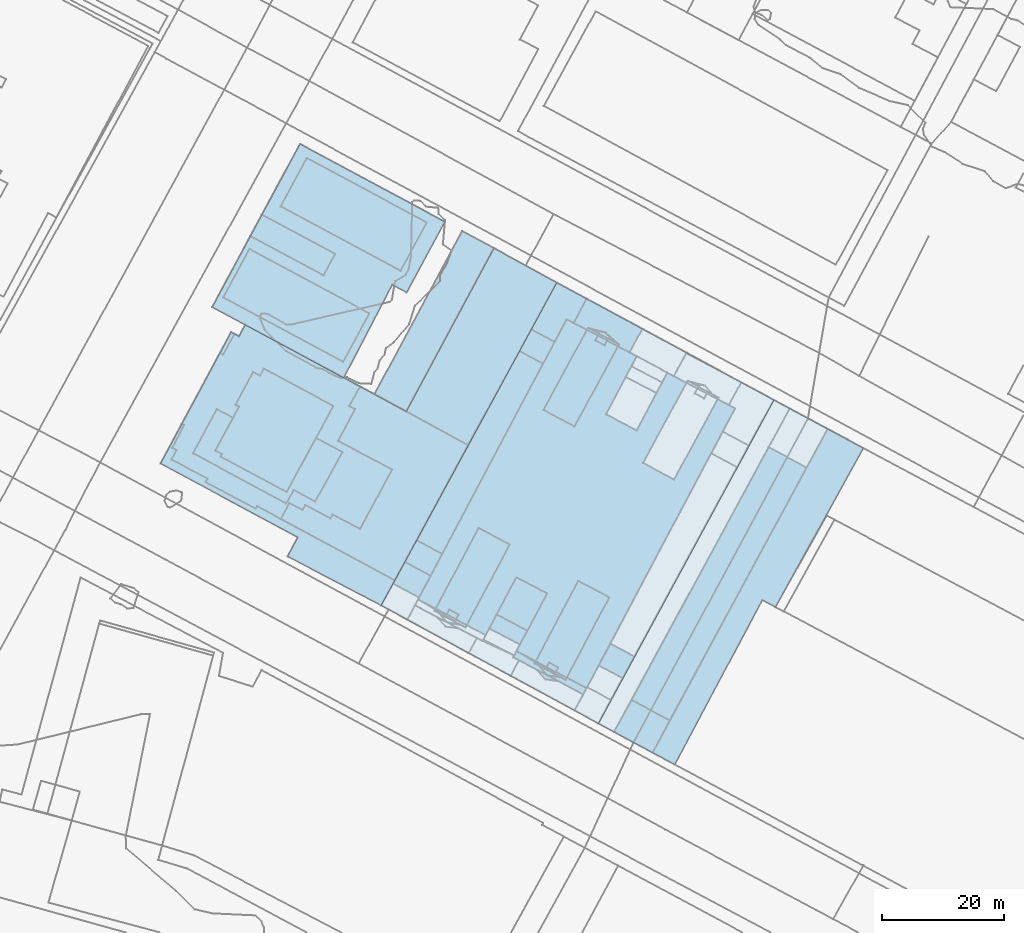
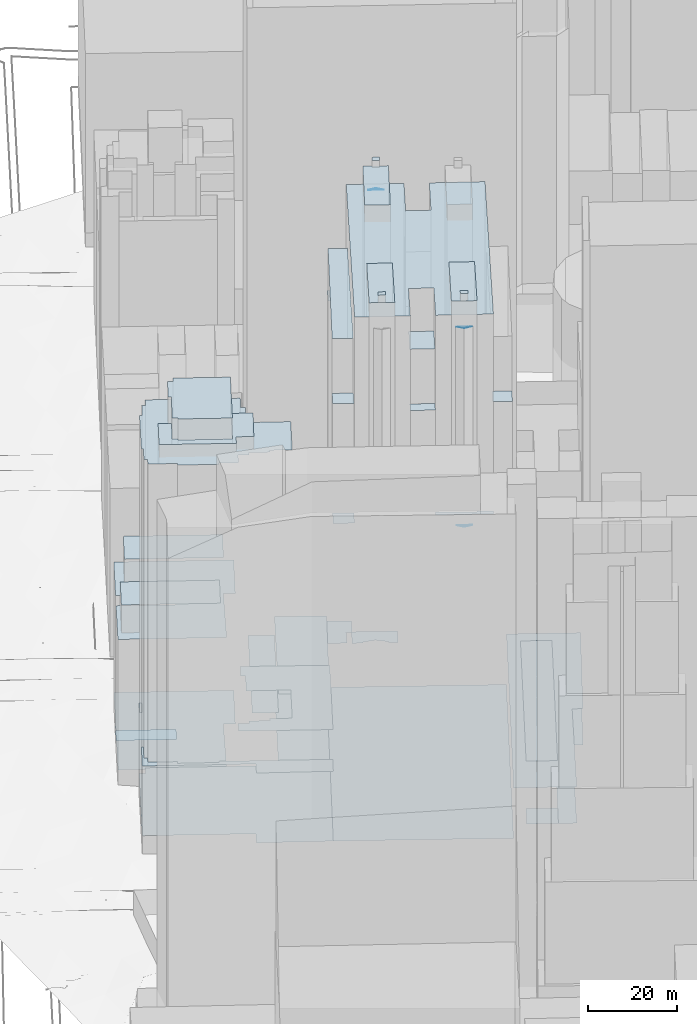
# Not in any storey, part 38 of 80: 39 roofs.
"""IFC4 building model written with IfcOpenShell, lengths in metres."""

from ifc_helpers import new_model, si_unit, frame, origin_with_axes, place, context, subcontext, project, spatial, polygons, element, save


model = new_model("IFC4")

# Units and contexts
model_context = context("Model", 3, precision=1e-05, world=origin_with_axes())
body_context = subcontext(model_context, "Body", "Model", "MODEL_VIEW")
ifc_project = project(units=[si_unit("AREAUNIT", "SQUARE_METRE"), si_unit("LENGTHUNIT", "METRE")], contexts=[model_context])

# Sites, building
site_1_placement = place(None, origin_with_axes())
site_1 = spatial("IfcSite", under=ifc_project, at=site_1_placement, Name="Topoexport Site")
site_2_placement = place(site_1_placement, origin_with_axes())
site_2 = spatial("IfcSite", under=site_1, at=site_2_placement, Name="TPX_BATIMENTS")
building_1_placement = place(site_2_placement, frame((117.977917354, 107.1295738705, 28.6103156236), z_axis=(0.0, 0.0, 1.0), x_axis=(1.0, 0.0, 0.0)))
building_1 = spatial("IfcBuilding", under=site_2, at=building_1_placement, Name="Batiment 27", CompositionType="ELEMENT")

# Roof
roof_1_placement = place(None, frame((117.977917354, 107.1295738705, 28.6103156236), z_axis=(0.0, 0.0, 1.0), x_axis=(1.0, 0.0, 0.0)))
element("IfcRoof", 1, at=roof_1_placement, inside=building_1, Name="Toiture 0", context=body_context, shape_type="Tessellation", body=[
    polygons([(0.0, 0.0, 2.0), (6.3201951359, -3.4126857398, 2.0), (9.1372634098, 1.8825086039, 2.0), (2.9022495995, 5.2295679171, 2.0)], [[[4, 1, 2]], [[2, 3, 4]]]),
])

# Building
building_2_placement = place(site_2_placement, frame((106.7237532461, 117.4349641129, 171.8733820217), z_axis=(0.0, 0.0, 1.0), x_axis=(1.0, 0.0, 0.0)))
building_2 = spatial("IfcBuilding", under=site_2, at=building_2_placement, Name="Batiment 29", CompositionType="ELEMENT")

# Roof
roof_2_placement = place(None, frame((106.7237532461, 117.4349641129, 171.8733820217), z_axis=(0.0, 0.0, 1.0), x_axis=(1.0, 0.0, 0.0)))
element("IfcRoof", 2, at=roof_2_placement, inside=building_2, Name="Toiture 0", context=body_context, shape_type="Tessellation", body=[
    polygons([(0.0, 0.0, 2.0), (1.5373911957, -0.8148118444, 2.0), (2.1242849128, 0.2578211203, 2.0), (0.5952053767, 1.0838316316, 2.0)], [[[4, 1, 2]], [[2, 3, 4]]]),
])

# Building
building_3_placement = place(site_2_placement, frame((105.7639228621, 117.9456215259, 113.8537947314), z_axis=(0.0, 0.0, 1.0), x_axis=(1.0, 0.0, 0.0)))
building_3 = spatial("IfcBuilding", under=site_2, at=building_3_placement, Name="Batiment 30", CompositionType="ELEMENT")

# Roof
roof_3_placement = place(None, frame((105.7639228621, 117.9456215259, 113.8537947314), z_axis=(0.0, 0.0, 1.0), x_axis=(1.0, 0.0, 0.0)))
element("IfcRoof", 3, at=roof_3_placement, inside=building_3, Name="Toiture 0", context=body_context, shape_type="Tessellation", body=[
    polygons([(0.0, 0.0, 51.0), (1.3516415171, -1.5386158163, 51.0), (3.4401714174, -1.8363224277, 51.0), (2.4972215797, -1.3254692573, 51.0)], [[[4, 1, 2]], [[2, 3, 4]]]),
])

# Building
building_4_placement = place(site_2_placement, frame((101.4674692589, 119.3723193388, 20.7697572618), z_axis=(0.0, 0.0, 1.0), x_axis=(1.0, 0.0, 0.0)))
building_4 = spatial("IfcBuilding", under=site_2, at=building_4_placement, Name="Batiment 31", CompositionType="ELEMENT")

# Roof
roof_4_placement = place(None, frame((101.4674692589, 119.3723193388, 20.7697572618), z_axis=(0.0, 0.0, 1.0), x_axis=(1.0, 0.0, 0.0)))
element("IfcRoof", 4, at=roof_4_placement, inside=building_4, Name="Toiture 0", context=body_context, shape_type="Tessellation", body=[
    polygons([(0.0, 0.0, 93.0), (11.4839478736, -6.1060781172, 93.0), (12.0459066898, -5.067041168, 93.0), (8.7673912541, -3.3398654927, 93.0), (8.5775159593, -3.7084452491, 93.0), (0.5287138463, 0.9942409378, 93.0)], [[[6, 1, 2]], [[2, 3, 4]], [[5, 6, 2]], [[2, 4, 5]]]),
])

# Building
building_5_placement = place(site_2_placement, frame((105.4087196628, 117.2753608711, 40.8364053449), z_axis=(0.0, 0.0, 1.0), x_axis=(1.0, 0.0, 0.0)))
building_5 = spatial("IfcBuilding", under=site_2, at=building_5_placement, Name="Batiment 33", CompositionType="ELEMENT")

# Roof
roof_5_placement = place(None, frame((105.4087196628, 117.2753608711, 40.8364053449), z_axis=(0.0, 0.0, 1.0), x_axis=(1.0, 0.0, 0.0)))
element("IfcRoof", 5, at=roof_5_placement, inside=building_5, Name="Toiture 0", context=body_context, shape_type="Tessellation", body=[
    polygons([(0.0, 0.0, 70.0), (1.3598241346, -1.5163163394, 70.0), (3.4400426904, -1.825221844, 70.0)], [[[3, 1, 2]]]),
])

# Building
building_6_placement = place(site_2_placement, frame((104.948482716, 118.3802403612, 20.8364840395), z_axis=(0.0, 0.0, 1.0), x_axis=(1.0, 0.0, 0.0)))
building_6 = spatial("IfcBuilding", under=site_2, at=building_6_placement, Name="Batiment 34", CompositionType="ELEMENT")

# Roof
roof_6_placement = place(None, frame((104.948482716, 118.3802403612, 20.8364840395), z_axis=(0.0, 0.0, 1.0), x_axis=(1.0, 0.0, 0.0)))
element("IfcRoof", 6, at=roof_6_placement, inside=building_6, Name="Toiture 0", context=body_context, shape_type="Tessellation", body=[
    polygons([(0.0, 0.0, 151.0), (5.0965025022, -2.7163662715, 151.0), (12.2665233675, 10.8228483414, 151.0), (7.1619736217, 13.5058093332, 151.0)], [[[4, 1, 2]], [[2, 3, 4]]]),
])

# Building
building_7_placement = place(site_2_placement, frame((115.4875749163, 118.0363623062, 20.7911243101), z_axis=(0.0, 0.0, 1.0), x_axis=(1.0, 0.0, 0.0)))
building_7 = spatial("IfcBuilding", under=site_2, at=building_7_placement, Name="Batiment 35", CompositionType="ELEMENT")

# Roof
roof_7_placement = place(None, frame((115.4875749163, 118.0363623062, 20.7911243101), z_axis=(0.0, 0.0, 1.0), x_axis=(1.0, 0.0, 0.0)))
element("IfcRoof", 7, at=roof_7_placement, inside=building_7, Name="Toiture 0", context=body_context, shape_type="Tessellation", body=[
    polygons([(0.0, 0.0, 120.0), (3.8991819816, -2.1085420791, 120.0), (5.8246692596, 1.4554440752, 120.0), (1.8915978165, 3.5746936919, 120.0)], [[[4, 1, 2]], [[2, 3, 4]]]),
])

# Building
building_8_placement = place(site_2_placement, frame((124.2981124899, 103.7168881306, 20.5602683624), z_axis=(0.0, 0.0, 1.0), x_axis=(1.0, 0.0, 0.0)))
building_8 = spatial("IfcBuilding", under=site_2, at=building_8_placement, Name="Batiment 43", CompositionType="ELEMENT")

# Roof
roof_8_placement = place(None, frame((124.2981124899, 103.7168881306, 20.5602683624), z_axis=(0.0, 0.0, 1.0), x_axis=(1.0, 0.0, 0.0)))
element("IfcRoof", 8, at=roof_8_placement, inside=building_8, Name="Toiture 0", context=body_context, shape_type="Tessellation", body=[
    polygons([(0.0, 0.0, 10.0), (3.6522260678, -1.9226684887, 10.0), (18.0018064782, 25.0559943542, 10.0), (20.1510385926, 23.8930274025, 10.0), (34.5701681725, 49.9621498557, 10.0), (28.6922531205, 53.0912869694, 10.0)], [[[6, 1, 2]], [[3, 4, 5]], [[6, 2, 3]], [[3, 5, 6]]]),
])

# Building
building_9_placement = place(site_2_placement, frame((115.4207049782, 108.532058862, 30.5602683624), z_axis=(0.0, 0.0, 1.0), x_axis=(1.0, 0.0, 0.0)))
building_9 = spatial("IfcBuilding", under=site_2, at=building_9_placement, Name="Batiment 47", CompositionType="ELEMENT")

# Roof
roof_9_placement = place(None, frame((115.4207049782, 108.532058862, 30.5602683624), z_axis=(0.0, 0.0, 1.0), x_axis=(1.0, 0.0, 0.0)))
element("IfcRoof", 9, at=roof_9_placement, inside=building_9, Name="Toiture 0", context=body_context, shape_type="Tessellation", body=[
    polygons([(0.0, 0.0, 10.0), (12.5296335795, -6.7378392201, 10.0), (26.8792139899, 20.2408236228, 10.0), (29.0284461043, 19.0778566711, 10.0), (43.4475756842, 45.1469791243, 10.0), (28.7687753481, 53.0477319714, 10.0)], [[[6, 1, 2]], [[3, 4, 5]], [[6, 2, 3]], [[3, 5, 6]]]),
])

# Building
building_10_placement = place(site_2_placement, frame((120.8801669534, 112.3591417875, 40.6481645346), z_axis=(0.0, 0.0, 1.0), x_axis=(1.0, 0.0, 0.0)))
building_10 = spatial("IfcBuilding", under=site_2, at=building_10_placement, Name="Batiment 48", CompositionType="ELEMENT")

# Roof
roof_10_placement = place(None, frame((120.8801669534, 112.3591417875, 40.6481645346), z_axis=(0.0, 0.0, 1.0), x_axis=(1.0, 0.0, 0.0)))
element("IfcRoof", 10, at=roof_10_placement, inside=building_10, Name="Toiture 0", context=body_context, shape_type="Tessellation", body=[
    polygons([(0.0, 0.0, 3.0), (6.2350138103, -3.3470593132, 3.0), (28.6975847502, 38.1032951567, 3.0), (22.4624654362, 41.461436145, 3.0)], [[[4, 1, 2]], [[2, 3, 4]]]),
])

# Building
building_11_placement = place(site_2_placement, frame((98.7355611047, 126.3683150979, 140.9622219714), z_axis=(0.0, 0.0, 1.0), x_axis=(1.0, 0.0, 0.0)))
building_11 = spatial("IfcBuilding", under=site_2, at=building_11_placement, Name="Batiment 49", CompositionType="ELEMENT")

# Roof
roof_11_placement = place(None, frame((98.7355611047, 126.3683150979, 140.9622219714), z_axis=(0.0, 0.0, 1.0), x_axis=(1.0, 0.0, 0.0)))
element("IfcRoof", 11, at=roof_11_placement, inside=building_11, Name="Toiture 0", context=body_context, shape_type="Tessellation", body=[
    polygons([(0.0, 0.0, 15.0), (5.0366380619, -2.6504521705, 15.0), (8.2830739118, 3.4712880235, 15.0), (3.2464387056, 6.1217379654, 15.0)], [[[4, 1, 2]], [[2, 3, 4]]]),
])

# Building
building_12_placement = place(site_2_placement, frame((85.8586663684, 128.8500079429, 20.7906594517), z_axis=(0.0, 0.0, 1.0), x_axis=(1.0, 0.0, 0.0)))
building_12 = spatial("IfcBuilding", under=site_2, at=building_12_placement, Name="Batiment 50", CompositionType="ELEMENT")

# Roof
roof_12_placement = place(None, frame((85.8586663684, 128.8500079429, 20.7906594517), z_axis=(0.0, 0.0, 1.0), x_axis=(1.0, 0.0, 0.0)))
element("IfcRoof", 12, at=roof_12_placement, inside=building_12, Name="Toiture 0", context=body_context, shape_type="Tessellation", body=[
    polygons([(0.0, 0.0, 147.0), (11.1010060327, -5.844095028, 147.0), (16.1233334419, 3.6400451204, 147.0), (21.1599686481, 0.9895951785, 147.0), (16.1375167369, -8.4834476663, 147.0), (27.6547095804, -14.544729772, 147.0), (51.973663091, 31.3347461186, 147.0), (40.8642373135, 37.1786817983, 147.0), (35.8417076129, 27.7167250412, 147.0), (30.8135250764, 30.3672629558, 147.0), (35.8607355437, 39.8850142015, 147.0), (24.3521878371, 45.9352801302, 147.0)], [[[12, 1, 2]], [[4, 5, 6]], [[6, 7, 8]], [[10, 11, 12]], [[12, 2, 3]], [[6, 8, 9]], [[10, 12, 3]], [[4, 6, 9]], [[9, 10, 3]], [[3, 4, 9]]]),
])

# Building
building_13_placement = place(site_2_placement, frame((79.7834254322, 127.8912834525, 20.6975796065), z_axis=(0.0, 0.0, 1.0), x_axis=(1.0, 0.0, 0.0)))
building_13 = spatial("IfcBuilding", under=site_2, at=building_13_placement, Name="Batiment 51", CompositionType="ELEMENT")

# Roof
roof_13_placement = place(None, frame((79.7834254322, 127.8912834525, 20.6975796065), z_axis=(0.0, 0.0, 1.0), x_axis=(1.0, 0.0, 0.0)))
element("IfcRoof", 13, at=roof_13_placement, inside=building_13, Name="Toiture 0", context=body_context, shape_type="Tessellation", body=[
    polygons([(0.0, 0.0, 6.0), (35.637279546, -19.3592245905, 6.0), (64.4060548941, 33.6885073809, 6.0), (28.8041259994, 52.9258761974, 6.0)], [[[4, 1, 2]], [[2, 3, 4]]]),
])

# Building
building_14_placement = place(site_2_placement, frame((106.4243167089, 159.930902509, 21.4761548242), z_axis=(0.0, 0.0, 1.0), x_axis=(1.0, 0.0, 0.0)))
building_14 = spatial("IfcBuilding", under=site_2, at=building_14_placement, Name="Batiment 52", CompositionType="ELEMENT")

# Roof
roof_14_placement = place(None, frame((106.4243167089, 159.930902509, 21.4761548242), z_axis=(0.0, 0.0, 1.0), x_axis=(1.0, 0.0, 0.0)))
element("IfcRoof", 14, at=roof_14_placement, inside=building_14, Name="Toiture 0", context=body_context, shape_type="Tessellation", body=[
    polygons([(0.0, 0.0, 151.0), (5.0797232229, -2.7276618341, 151.0), (12.3774646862, 10.7131197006, 151.0), (7.2976187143, 13.4518772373, 151.0)], [[[4, 1, 2]], [[2, 3, 4]]]),
])

# Building
building_15_placement = place(site_2_placement, frame((102.4881306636, 169.5885518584, 21.7443464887), z_axis=(0.0, 0.0, 1.0), x_axis=(1.0, 0.0, 0.0)))
building_15 = spatial("IfcBuilding", under=site_2, at=building_15_placement, Name="Batiment 53", CompositionType="ELEMENT")

# Roof
roof_15_placement = place(None, frame((102.4881306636, 169.5885518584, 21.7443464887), z_axis=(0.0, 0.0, 1.0), x_axis=(1.0, 0.0, 0.0)))
element("IfcRoof", 15, at=roof_15_placement, inside=building_15, Name="Toiture 0", context=body_context, shape_type="Tessellation", body=[
    polygons([(0.0, 0.0, 120.0), (3.865132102, -2.0867392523, 120.0), (5.7567207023, 1.4879525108, 120.0), (1.9256092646, 3.5528813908, 120.0)], [[[4, 1, 2]], [[2, 3, 4]]]),
])

# Building
building_16_placement = place(site_2_placement, frame((114.5459395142, 172.9371592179, 41.8919622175), z_axis=(0.0, 0.0, 1.0), x_axis=(1.0, 0.0, 0.0)))
building_16 = spatial("IfcBuilding", under=site_2, at=building_16_placement, Name="Batiment 54", CompositionType="ELEMENT")

# Roof
roof_16_placement = place(None, frame((114.5459395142, 172.9371592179, 41.8919622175), z_axis=(0.0, 0.0, 1.0), x_axis=(1.0, 0.0, 0.0)))
element("IfcRoof", 16, at=roof_16_placement, inside=building_16, Name="Toiture 0", context=body_context, shape_type="Tessellation", body=[
    polygons([(0.0, 0.0, 124.0), (2.4804532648, -1.3367629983, 124.0), (3.4318372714, -1.8475169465, 124.0), (2.0464414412, -0.3092952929, 124.0)], [[[4, 1, 2]], [[2, 3, 4]]]),
])

# Building
building_17_placement = place(site_2_placement, frame((114.9105640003, 171.3426705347, 172.8731858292), z_axis=(0.0, 0.0, 1.0), x_axis=(1.0, 0.0, 0.0)))
building_17 = spatial("IfcBuilding", under=site_2, at=building_17_placement, Name="Batiment 55", CompositionType="ELEMENT")

# Roof
roof_17_placement = place(None, frame((114.9105640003, 171.3426705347, 172.8731858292), z_axis=(0.0, 0.0, 1.0), x_axis=(1.0, 0.0, 0.0)))
element("IfcRoof", 17, at=roof_17_placement, inside=building_17, Name="Toiture 0", context=body_context, shape_type="Tessellation", body=[
    polygons([(0.0, 0.0, 2.0), (1.529069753, -0.8260088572, 2.0), (2.1158287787, 0.2577256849, 2.0), (0.5867591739, 1.0837344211, 2.0)], [[[4, 1, 2]], [[2, 3, 4]]]),
])

# Building
building_18_placement = place(site_2_placement, frame((111.3914170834, 174.1661728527, 21.831197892), z_axis=(0.0, 0.0, 1.0), x_axis=(1.0, 0.0, 0.0)))
building_18 = spatial("IfcBuilding", under=site_2, at=building_18_placement, Name="Batiment 67", CompositionType="ELEMENT")

# Roof
roof_18_placement = place(None, frame((111.3914170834, 174.1661728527, 21.831197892), z_axis=(0.0, 0.0, 1.0), x_axis=(1.0, 0.0, 0.0)))
element("IfcRoof", 18, at=roof_18_placement, inside=building_18, Name="Toiture 0", context=body_context, shape_type="Tessellation", body=[
    polygons([(0.0, 0.0, 20.0), (2.1403869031, -1.1297715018, 20.0), (2.3305183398, -0.7833931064, 20.0), (5.2009638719, -1.5383089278, 20.0), (7.4103643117, -3.5221506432, 20.0), (7.2449094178, -3.8127312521, 20.0), (9.1388508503, -4.8010344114, 20.0), (11.2550985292, -0.9461725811, 20.0), (2.1061341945, 3.9990709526, 20.0)], [[[9, 1, 2]], [[5, 6, 7]], [[7, 8, 9]], [[9, 2, 3]], [[4, 5, 7]], [[9, 3, 4]], [[4, 7, 9]]]),
])

# Building
building_19_placement = place(site_2_placement, frame((104.4137399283, 173.1414332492, 21.8630474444), z_axis=(0.0, 0.0, 1.0), x_axis=(1.0, 0.0, 0.0)))
building_19 = spatial("IfcBuilding", under=site_2, at=building_19_placement, Name="Batiment 68", CompositionType="ELEMENT")

# Roof
roof_19_placement = place(None, frame((104.4137399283, 173.1414332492, 21.8630474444), z_axis=(0.0, 0.0, 1.0), x_axis=(1.0, 0.0, 0.0)))
element("IfcRoof", 19, at=roof_19_placement, inside=building_19, Name="Toiture 0", context=body_context, shape_type="Tessellation", body=[
    polygons([(0.0, 0.0, 23.0), (3.8311114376, -2.06492888, 23.0), (5.7971142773, 1.6438548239, 23.0), (6.9776771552, 1.0247396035, 23.0), (9.0838113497, 5.0238105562, 23.0), (4.1738115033, 7.6757264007, 23.0)], [[[6, 1, 2]], [[3, 4, 5]], [[6, 2, 3]], [[3, 5, 6]]]),
])

# Building
building_20_placement = place(site_2_placement, frame((78.7061684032, 162.506692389, 21.2045848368), z_axis=(0.0, 0.0, 1.0), x_axis=(1.0, 0.0, 0.0)))
building_20 = spatial("IfcBuilding", under=site_2, at=building_20_placement, Name="Batiment 173", CompositionType="ELEMENT")

# Roof
roof_20_placement = place(None, frame((78.7061684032, 162.506692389, 21.2045848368), z_axis=(0.0, 0.0, 1.0), x_axis=(1.0, 0.0, 0.0)))
element("IfcRoof", 20, at=roof_20_placement, inside=building_20, Name="Toiture 0", context=body_context, shape_type="Tessellation", body=[
    polygons([(0.0, 0.0, 20.0), (5.2156594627, -2.803817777, 20.0), (19.5931770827, 23.953040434, 20.0), (14.377530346, 26.7568479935, 20.0)], [[[4, 1, 2]], [[2, 3, 4]]]),
])

# Building
building_21_placement = place(site_2_placement, frame((53.9063589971, 178.3836490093, 62.2466982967), z_axis=(0.0, 0.0, 1.0), x_axis=(1.0, 0.0, 0.0)))
building_21 = spatial("IfcBuilding", under=site_2, at=building_21_placement, Name="Batiment 174", CompositionType="ELEMENT")

# Roof
roof_21_placement = place(None, frame((53.9063589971, 178.3836490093, 62.2466982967), z_axis=(0.0, 0.0, 1.0), x_axis=(1.0, 0.0, 0.0)))
element("IfcRoof", 21, at=roof_21_placement, inside=building_21, Name="Toiture 0", context=body_context, shape_type="Tessellation", body=[
    polygons([(0.0, 0.0, 7.7000007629), (19.6563100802, -10.5631889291, 7.7000007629), (23.9622377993, -2.6305951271, 7.7000007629), (4.2973726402, 7.9435850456, 7.7000007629)], [[[4, 1, 2]], [[2, 3, 4]]]),
])

# Building
building_22_placement = place(site_2_placement, frame((52.1098467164, 176.7973780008, 20.2692366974), z_axis=(0.0, 0.0, 1.0), x_axis=(1.0, 0.0, 0.0)))
building_22 = spatial("IfcBuilding", under=site_2, at=building_22_placement, Name="Batiment 175", CompositionType="ELEMENT")

# Roof
roof_22_placement = place(None, frame((52.1098467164, 176.7973780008, 20.2692366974), z_axis=(0.0, 0.0, 1.0), x_axis=(1.0, 0.0, 0.0)))
element("IfcRoof", 22, at=roof_22_placement, inside=building_22, Name="Toiture 0", context=body_context, shape_type="Tessellation", body=[
    polygons([(0.0, 0.0, 6.0), (21.5590744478, -11.5847130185, 6.0), (29.5109655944, 3.6843947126, 6.0), (31.872471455, 2.412853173, 6.0), (38.1367223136, 13.9875293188, 6.0), (14.3775952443, 26.7567958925, 6.0)], [[[6, 1, 2]], [[3, 4, 5]], [[6, 2, 3]], [[3, 5, 6]]]),
])

# Building
building_23_placement = place(site_2_placement, frame((52.1098467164, 176.7973780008, 20.0588630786), z_axis=(0.0, 0.0, 1.0), x_axis=(1.0, 0.0, 0.0)))
building_23 = spatial("IfcBuilding", under=site_2, at=building_23_placement, Name="Batiment 176", CompositionType="ELEMENT")

# Roof
roof_23_placement = place(None, frame((52.1098467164, 176.7973780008, 20.0588630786), z_axis=(0.0, 0.0, 1.0), x_axis=(1.0, 0.0, 0.0)))
element("IfcRoof", 23, at=roof_23_placement, inside=building_23, Name="Toiture 0", context=body_context, shape_type="Tessellation", body=[
    polygons([(0.0, 0.0, 42.0), (21.5590744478, -11.5847130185, 42.0), (29.5109655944, 3.6843947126, 42.0), (31.872471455, 2.412853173, 42.0), (38.1367223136, 13.9875293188, 42.0), (14.3775952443, 26.7567958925, 42.0), (8.1303289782, 15.1712352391, 42.0), (20.1415581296, 8.715946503, 42.0), (18.2324312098, 5.1965718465, 42.0), (6.2211982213, 11.6518637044, 42.0)], [[[10, 1, 2]], [[3, 4, 5]], [[5, 6, 7]], [[9, 10, 2]], [[3, 5, 7]], [[8, 9, 2]], [[3, 7, 8]], [[8, 2, 3]]]),
])

# Building
building_24_placement = place(site_2_placement, frame((63.3141408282, 193.3143650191, 62.430841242), z_axis=(0.0, 0.0, 1.0), x_axis=(1.0, 0.0, 0.0)))
building_24 = spatial("IfcBuilding", under=site_2, at=building_24_placement, Name="Batiment 177", CompositionType="ELEMENT")

# Roof
roof_24_placement = place(None, frame((63.3141408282, 193.3143650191, 62.430841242), z_axis=(0.0, 0.0, 1.0), x_axis=(1.0, 0.0, 0.0)))
element("IfcRoof", 24, at=roof_24_placement, inside=building_24, Name="Toiture 0", context=body_context, shape_type="Tessellation", body=[
    polygons([(0.0, 0.0, 7.7000007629), (19.6564142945, -10.5742645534, 7.7000007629), (23.9623227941, -2.6416648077, 7.7000007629), (4.2974822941, 7.9324902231, 7.7000007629)], [[[4, 1, 2]], [[2, 3, 4]]]),
])

# Building
building_25_placement = place(site_2_placement, frame((58.3310449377, 188.4492417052, 20.0588630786), z_axis=(0.0, 0.0, 1.0), x_axis=(1.0, 0.0, 0.0)))
building_25 = spatial("IfcBuilding", under=site_2, at=building_25_placement, Name="Batiment 178", CompositionType="ELEMENT")

# Roof
roof_25_placement = place(None, frame((58.3310449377, 188.4492417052, 20.0588630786), z_axis=(0.0, 0.0, 1.0), x_axis=(1.0, 0.0, 0.0)))
element("IfcRoof", 25, at=roof_25_placement, inside=building_25, Name="Toiture 0", context=body_context, shape_type="Tessellation", body=[
    polygons([(0.0, 0.0, 5.0), (12.0112329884, -6.4552918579, 5.0), (13.9203599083, -2.9359172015, 5.0), (1.9091307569, 3.5193715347, 5.0)], [[[4, 1, 2]], [[2, 3, 4]]]),
])

# Building
building_26_placement = place(site_2_placement, frame((53.3786072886, 169.3069851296, 21.038693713), z_axis=(0.0, 0.0, 1.0), x_axis=(1.0, 0.0, 0.0)))
building_26 = spatial("IfcBuilding", under=site_2, at=building_26_placement, Name="Batiment 179", CompositionType="ELEMENT")

# Roof
roof_26_placement = place(None, frame((53.3786072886, 169.3069851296, 21.038693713), z_axis=(0.0, 0.0, 1.0), x_axis=(1.0, 0.0, 0.0)))
element("IfcRoof", 26, at=roof_26_placement, inside=building_26, Name="Toiture 0", context=body_context, shape_type="Tessellation", body=[
    polygons([(0.0, 0.0, 25.0), (0.5353523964, -0.3046485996, 25.0), (2.3698157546, 3.1028322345, 25.0), (1.8261519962, 3.3962819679, 25.0)], [[[4, 1, 2]], [[2, 3, 4]]]),
])

# Building
building_27_placement = place(site_2_placement, frame((48.9439736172, 152.8241808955, 21.1794819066), z_axis=(0.0, 0.0, 1.0), x_axis=(1.0, 0.0, 0.0)))
building_27 = spatial("IfcBuilding", under=site_2, at=building_27_placement, Name="Batiment 180", CompositionType="ELEMENT")

# Roof
roof_27_placement = place(None, frame((48.9439736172, 152.8241808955, 21.1794819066), z_axis=(0.0, 0.0, 1.0), x_axis=(1.0, 0.0, 0.0)))
element("IfcRoof", 27, at=roof_27_placement, inside=building_27, Name="Toiture 0", context=body_context, shape_type="Tessellation", body=[
    polygons([(0.0, 0.0, 110.0), (15.3072963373, -8.2378124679, 110.0), (16.539143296, -6.0030615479, 110.0), (20.031093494, -7.9387212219, 110.0), (24.5122266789, 0.1735393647, 110.0), (20.1715989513, 2.4990246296, 110.0), (15.3699209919, -6.3608053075, 110.0), (4.5649061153, -0.5576359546, 110.0), (4.788158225, -0.1553634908, 110.0), (3.6753780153, 0.4423431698, 110.0), (6.5761073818, 5.8050944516, 110.0), (3.9173823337, 7.2286264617, 110.0)], [[[3, 4, 5]], [[5, 6, 7]], [[8, 9, 10]], [[10, 11, 12]], [[3, 5, 7]], [[10, 12, 1]], [[2, 3, 7]], [[8, 10, 1]], [[1, 2, 7]], [[7, 8, 1]]]),
])

# Building
building_28_placement = place(site_2_placement, frame((52.6193516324, 153.2665240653, 20.9538410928), z_axis=(0.0, 0.0, 1.0), x_axis=(1.0, 0.0, 0.0)))
building_28 = spatial("IfcBuilding", under=site_2, at=building_28_placement, Name="Batiment 181", CompositionType="ELEMENT")

# Roof
roof_28_placement = place(None, frame((52.6193516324, 153.2665240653, 20.9538410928), z_axis=(0.0, 0.0, 1.0), x_axis=(1.0, 0.0, 0.0)))
element("IfcRoof", 28, at=roof_28_placement, inside=building_28, Name="Toiture 0", context=body_context, shape_type="Tessellation", body=[
    polygons([(0.0, 0.0, 116.0), (1.1127802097, -0.5977066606, 116.0), (0.8895281, -0.9999791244, 116.0), (11.6945429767, -6.8031484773, 116.0), (19.3390148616, 7.3188466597, 116.0), (7.9393204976, 13.448168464, 116.0), (7.3113819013, 12.2751425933, 116.0), (6.1901626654, 12.8727503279, 116.0), (3.2894387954, 7.5099976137, 116.0), (3.8925728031, 7.1839315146, 116.0)], [[[10, 1, 2]], [[2, 3, 4]], [[4, 5, 6]], [[7, 8, 9]], [[10, 2, 4]], [[4, 6, 7]], [[7, 9, 10]], [[10, 4, 7]]]),
])

# Building
building_29_placement = place(site_2_placement, frame((45.4357916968, 151.795361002, 20.6875388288), z_axis=(0.0, 0.0, 1.0), x_axis=(1.0, 0.0, 0.0)))
building_29 = spatial("IfcBuilding", under=site_2, at=building_29_placement, Name="Batiment 182", CompositionType="ELEMENT")

# Roof
roof_29_placement = place(None, frame((45.4357916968, 151.795361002, 20.6875388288), z_axis=(0.0, 0.0, 1.0), x_axis=(1.0, 0.0, 0.0)))
element("IfcRoof", 29, at=roof_29_placement, inside=building_29, Name="Toiture 0", context=body_context, shape_type="Tessellation", body=[
    polygons([(0.0, 0.0, 107.0), (5.9203309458, -3.1509334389, 107.0), (5.6146072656, -3.720696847, 107.0), (13.7856998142, -8.0556430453, 107.0), (14.0088230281, -7.6422696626, 107.0), (17.9245978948, -9.7284433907, 107.0), (19.3210010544, -7.125408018, 107.0), (21.4785274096, -8.2771984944, 107.0), (21.9247729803, -7.4504512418, 107.0), (26.0784283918, -9.6670859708, 107.0), (26.4255795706, -9.0302271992, 107.0), (30.9185296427, -11.3872491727, 107.0), (36.1572274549, -1.6341566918, 107.0), (27.3067714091, 3.0481492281, 107.0), (30.0995650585, 8.2542240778, 107.0), (29.1483116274, 8.7538826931, 107.0), (30.9087376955, 11.9939753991, 107.0), (12.0765422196, 22.100429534, 107.0), (11.0601529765, 20.2123506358, 107.0), (10.3126313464, 20.6144563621, 107.0), (8.4781679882, 17.206975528, 107.0), (7.9428155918, 17.5116241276, 107.0), (1.679905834, 5.8148724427, 107.0), (2.0700969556, 5.6528677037, 107.0), (0.1044447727, 1.9107990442, 107.0), (0.8347003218, 1.5417986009, 107.0)], [[[26, 1, 2]], [[2, 3, 4]], [[5, 6, 7]], [[7, 8, 9]], [[9, 10, 11]], [[11, 12, 13]], [[14, 15, 16]], [[16, 17, 18]], [[19, 20, 21]], [[21, 22, 23]], [[24, 25, 26]], [[26, 2, 4]], [[9, 11, 13]], [[14, 16, 18]], [[19, 21, 23]], [[24, 26, 4]], [[7, 9, 13]], [[14, 18, 19]], [[19, 23, 24]], [[24, 4, 5]], [[5, 7, 13]], [[14, 19, 24]], [[24, 5, 13]], [[13, 14, 24]]]),
])

# Building
building_30_placement = place(site_2_placement, frame((43.6198790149, 151.1525582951, 20.6875388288), z_axis=(0.0, 0.0, 1.0), x_axis=(1.0, 0.0, 0.0)))
building_30 = spatial("IfcBuilding", under=site_2, at=building_30_placement, Name="Batiment 183", CompositionType="ELEMENT")

# Roof
roof_30_placement = place(None, frame((43.6198790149, 151.1525582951, 20.6875388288), z_axis=(0.0, 0.0, 1.0), x_axis=(1.0, 0.0, 0.0)))
element("IfcRoof", 30, at=roof_30_placement, inside=building_30, Name="Toiture 0", context=body_context, shape_type="Tessellation", body=[
    polygons([(0.0, 0.0, 6.0), (22.5189582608, -12.0954008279, 6.0), (20.8331965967, -15.2236014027, 6.0), (36.1635464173, -23.2612748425, 6.0), (64.9676724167, 29.6646013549, 6.0), (54.679466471, 35.307174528, 6.0), (40.301948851, 8.550316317, 6.0), (13.8924549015, 22.7432322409, 6.0), (12.8760656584, 20.8551533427, 6.0), (11.5848802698, 21.5507088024, 6.0)], [[[10, 1, 2]], [[2, 3, 4]], [[4, 5, 6]], [[7, 8, 9]], [[9, 10, 2]], [[4, 6, 7]], [[7, 9, 2]], [[2, 4, 7]]]),
])

# Building
building_31_placement = place(site_2_placement, frame((83.9218278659, 159.7028746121, 21.3185794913), z_axis=(0.0, 0.0, 1.0), x_axis=(1.0, 0.0, 0.0)))
building_31 = spatial("IfcBuilding", under=site_2, at=building_31_placement, Name="Batiment 184", CompositionType="ELEMENT")

# Roof
roof_31_placement = place(None, frame((83.9218278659, 159.7028746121, 21.3185794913), z_axis=(0.0, 0.0, 1.0), x_axis=(1.0, 0.0, 0.0)))
element("IfcRoof", 31, at=roof_31_placement, inside=building_31, Name="Toiture 0", context=body_context, shape_type="Tessellation", body=[
    polygons([(0.0, 0.0, 25.0), (10.1183913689, -5.5557477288, 25.0), (24.6657235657, 21.1142850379, 25.0), (14.37751762, 26.756858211, 25.0)], [[[4, 1, 2]], [[2, 3, 4]]]),
])

# Building
building_32_placement = place(site_2_placement, frame((85.6362783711, 138.5507919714, 21.0890233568), z_axis=(0.0, 0.0, 1.0), x_axis=(1.0, 0.0, 0.0)))
building_32 = spatial("IfcBuilding", under=site_2, at=building_32_placement, Name="Batiment 185", CompositionType="ELEMENT")

# Roof
roof_32_placement = place(None, frame((85.6362783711, 138.5507919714, 21.0890233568), z_axis=(0.0, 0.0, 1.0), x_axis=(1.0, 0.0, 0.0)))
element("IfcRoof", 32, at=roof_32_placement, inside=building_32, Name="Toiture 0", context=body_context, shape_type="Tessellation", body=[
    polygons([(0.0, 0.0, 135.0), (4.1792434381, -2.2385320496, 135.0), (20.7169843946, 28.9510206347, 135.0), (16.8518522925, 31.0377598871, 135.0)], [[[4, 1, 2]], [[2, 3, 4]]]),
])

# Building
building_33_placement = place(site_2_placement, frame((63.3603895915, 142.0669176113, 21.031144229), z_axis=(0.0, 0.0, 1.0), x_axis=(1.0, 0.0, 0.0)))
building_33 = spatial("IfcBuilding", under=site_2, at=building_33_placement, Name="Batiment 186", CompositionType="ELEMENT")

# Roof
roof_33_placement = place(None, frame((63.3603895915, 142.0669176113, 21.031144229), z_axis=(0.0, 0.0, 1.0), x_axis=(1.0, 0.0, 0.0)))
element("IfcRoof", 33, at=roof_33_placement, inside=building_33, Name="Toiture 0", context=body_context, shape_type="Tessellation", body=[
    polygons([(0.0, 0.0, 33.0), (18.6972361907, -10.1080082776, 33.0), (30.6798296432, 12.080209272, 33.0), (12.9841398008, 21.7224187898, 33.0), (11.2237137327, 18.4823260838, 33.0), (12.1749671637, 17.9826674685, 33.0), (9.3821735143, 12.7765926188, 33.0), (18.2326295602, 8.0942866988, 33.0), (12.993931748, -1.658805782, 33.0), (8.5009816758, 0.6982161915, 33.0), (8.1538304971, 0.0613574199, 33.0), (4.0001750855, 2.2779921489, 33.0), (3.5539295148, 1.4512448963, 33.0), (1.3964031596, 2.6030353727, 33.0)], [[[14, 1, 2]], [[3, 4, 5]], [[6, 7, 8]], [[9, 10, 11]], [[11, 12, 13]], [[13, 14, 2]], [[3, 5, 6]], [[9, 11, 13]], [[3, 6, 8]], [[9, 13, 2]], [[2, 3, 8]], [[8, 9, 2]]]),
])

# Building
building_34_placement = place(site_2_placement, frame((88.5482734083, 126.9494492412, 20.9399890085), z_axis=(0.0, 0.0, 1.0), x_axis=(1.0, 0.0, 0.0)))
building_34 = spatial("IfcBuilding", under=site_2, at=building_34_placement, Name="Batiment 187", CompositionType="ELEMENT")

# Roof
roof_34_placement = place(None, frame((88.5482734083, 126.9494492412, 20.9399890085), z_axis=(0.0, 0.0, 1.0), x_axis=(1.0, 0.0, 0.0)))
element("IfcRoof", 34, at=roof_34_placement, inside=building_34, Name="Toiture 0", context=body_context, shape_type="Tessellation", body=[
    polygons([(0.0, 0.0, 151.0), (5.0963614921, -2.7052766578, 151.0), (12.3328949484, 10.9235121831, 151.0), (7.2282283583, 13.617585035, 151.0)], [[[4, 1, 2]], [[2, 3, 4]]]),
])

# Building
building_35_placement = place(site_2_placement, frame((90.3149703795, 126.0151718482, 171.9493104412), z_axis=(0.0, 0.0, 1.0), x_axis=(1.0, 0.0, 0.0)))
building_35 = spatial("IfcBuilding", under=site_2, at=building_35_placement, Name="Batiment 189", CompositionType="ELEMENT")

# Roof
roof_35_placement = place(None, frame((90.3149703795, 126.0151718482, 171.9493104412), z_axis=(0.0, 0.0, 1.0), x_axis=(1.0, 0.0, 0.0)))
element("IfcRoof", 35, at=roof_35_placement, inside=building_35, Name="Toiture 0", context=body_context, shape_type="Tessellation", body=[
    polygons([(0.0, 0.0, 2.0), (1.5289471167, -0.8149132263, 2.0), (2.1906461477, 0.358507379, 2.0), (0.6615702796, 1.1845212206, 2.0)], [[[4, 1, 2]], [[2, 3, 4]]]),
])

# Building
building_36_placement = place(site_2_placement, frame((83.7106505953, 134.9979159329, 21.0569415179), z_axis=(0.0, 0.0, 1.0), x_axis=(1.0, 0.0, 0.0)))
building_36 = spatial("IfcBuilding", under=site_2, at=building_36_placement, Name="Batiment 192", CompositionType="ELEMENT")

# Roof
roof_36_placement = place(None, frame((83.7106505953, 134.9979159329, 21.0569415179), z_axis=(0.0, 0.0, 1.0), x_axis=(1.0, 0.0, 0.0)))
element("IfcRoof", 36, at=roof_36_placement, inside=building_36, Name="Toiture 0", context=body_context, shape_type="Tessellation", body=[
    polygons([(0.0, 0.0, 120.0), (4.2049527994, -2.2715413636, 120.0), (6.1048712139, 1.3143439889, 120.0), (1.9256277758, 3.5528760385, 120.0)], [[[4, 1, 2]], [[2, 3, 4]]]),
])

# Building
building_37_placement = place(site_2_placement, frame((81.7767093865, 131.433841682, 21.0074778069), z_axis=(0.0, 0.0, 1.0), x_axis=(1.0, 0.0, 0.0)))
building_37 = spatial("IfcBuilding", under=site_2, at=building_37_placement, Name="Batiment 193", CompositionType="ELEMENT")

# Roof
roof_37_placement = place(None, frame((81.7767093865, 131.433841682, 21.0074778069), z_axis=(0.0, 0.0, 1.0), x_axis=(1.0, 0.0, 0.0)))
element("IfcRoof", 37, at=roof_37_placement, inside=building_37, Name="Toiture 0", context=body_context, shape_type="Tessellation", body=[
    polygons([(0.0, 0.0, 90.0), (4.2388447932, -2.2822511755, 90.0), (6.1388940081, 1.2925328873, 90.0), (1.9339412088, 3.5640742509, 90.0)], [[[4, 1, 2]], [[2, 3, 4]]]),
])

# Building
building_38_placement = place(site_2_placement, frame((43.6198790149, 151.1525582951, 20.8515693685), z_axis=(0.0, 0.0, 1.0), x_axis=(1.0, 0.0, 0.0)))
building_38 = spatial("IfcBuilding", under=site_2, at=building_38_placement, Name="Batiment 195", CompositionType="ELEMENT")

# Roof
roof_38_placement = place(None, frame((43.6198790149, 151.1525582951, 20.8515693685), z_axis=(0.0, 0.0, 1.0), x_axis=(1.0, 0.0, 0.0)))
element("IfcRoof", 38, at=roof_38_placement, inside=building_38, Name="Toiture 0", context=body_context, shape_type="Tessellation", body=[
    polygons([(0.0, 0.0, 25.0), (22.5189582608, -12.0954008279, 25.0), (20.8331965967, -15.2236014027, 25.0), (36.1635464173, -23.2612748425, 25.0), (38.4377467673, -19.1936489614, 25.0), (15.8247357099, -6.9994669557, 25.0), (15.6016124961, -7.4128403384, 25.0), (7.4305199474, -3.07789414, 25.0), (7.7362436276, -2.508130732, 25.0), (1.8159126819, 0.6428027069, 25.0), (2.6506130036, 2.1846013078, 25.0), (1.9203574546, 2.5536017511, 25.0), (3.8860096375, 6.2956704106, 25.0), (3.4958185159, 6.4576751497, 25.0)], [[[2, 3, 4]], [[5, 6, 7]], [[8, 9, 10]], [[10, 11, 12]], [[12, 13, 14]], [[2, 4, 5]], [[12, 14, 1]], [[1, 2, 5]], [[10, 12, 1]], [[1, 5, 7]], [[8, 10, 1]], [[1, 7, 8]]]),
])

# Building
building_39_placement = place(site_2_placement, frame((97.5295573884, 124.0894496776, 110.9435975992), z_axis=(0.0, 0.0, 1.0), x_axis=(1.0, 0.0, 0.0)))
building_39 = spatial("IfcBuilding", under=site_2, at=building_39_placement, Name="Batiment 203", CompositionType="ELEMENT")

# Roof
roof_39_placement = place(None, frame((97.5295573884, 124.0894496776, 110.9435975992), z_axis=(0.0, 0.0, 1.0), x_axis=(1.0, 0.0, 0.0)))
element("IfcRoof", 39, at=roof_39_placement, inside=building_39, Name="Toiture 0", context=body_context, shape_type="Tessellation", body=[
    polygons([(0.0, 0.0, 30.0), (5.0366391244, -2.6504529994, 30.0), (6.2426417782, -0.3715867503, 30.0), (1.2060037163, 2.2788654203, 30.0)], [[[4, 1, 2]], [[2, 3, 4]]]),
])

save(model, "model.ifc")
